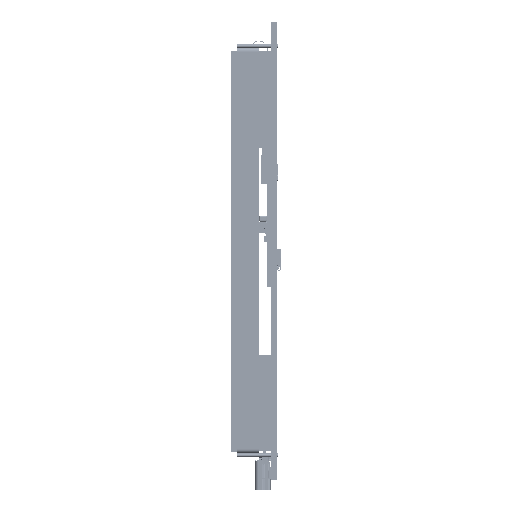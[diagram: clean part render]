
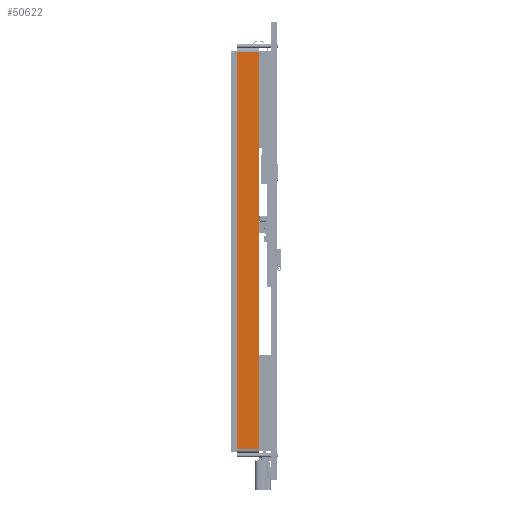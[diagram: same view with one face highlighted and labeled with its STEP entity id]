
A CAD part, left-side view. The second image highlights one B-rep face of the part: STEP entity #50622.
In plain terms, the highlighted planar face has unit normal (-1, 0, 0).
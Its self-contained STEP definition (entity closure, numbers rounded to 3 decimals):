
#912 = PLANE ( 'NONE',  #94893 ) ;
#12338 = VERTEX_POINT ( 'NONE', #179510 ) ;
#17819 = ORIENTED_EDGE ( 'NONE', *, *, #45674, .T. ) ;
#21755 = CARTESIAN_POINT ( 'NONE',  ( -52.44, 10.3, -21.785 ) ) ;
#33971 = DIRECTION ( 'NONE',  ( 0., 0., 1. ) ) ;
#44481 = DIRECTION ( 'NONE',  ( 0., 0., -1. ) ) ;
#45674 = EDGE_CURVE ( 'NONE', #143710, #12338, #61020, .T. ) ;
#50622 = ADVANCED_FACE ( 'NONE', ( #100681 ), #912, .F. ) ;
#56490 = CARTESIAN_POINT ( 'NONE',  ( -52.44, 4.6, -21.785 ) ) ;
#57116 = DIRECTION ( 'NONE',  ( 0., 1., 0. ) ) ;
#61020 = LINE ( 'NONE', #56490, #137694 ) ;
#69096 = VECTOR ( 'NONE', #57116, 1000. ) ;
#71075 = ORIENTED_EDGE ( 'NONE', *, *, #110037, .T. ) ;
#71444 = VECTOR ( 'NONE', #33971, 1000. ) ;
#73941 = ORIENTED_EDGE ( 'NONE', *, *, #102915, .F. ) ;
#74979 = CARTESIAN_POINT ( 'NONE',  ( -52.44, 4.6, -20.785 ) ) ;
#86155 = CARTESIAN_POINT ( 'NONE',  ( -52.44, 10.3, 82.015 ) ) ;
#87374 = CARTESIAN_POINT ( 'NONE',  ( -52.44, 10.3, -21.785 ) ) ;
#92022 = VERTEX_POINT ( 'NONE', #140131 ) ;
#93154 = EDGE_CURVE ( 'NONE', #12338, #123266, #120958, .T. ) ;
#93625 = ORIENTED_EDGE ( 'NONE', *, *, #93154, .T. ) ;
#94893 = AXIS2_PLACEMENT_3D ( 'NONE', #87374, #130892, #44481 ) ;
#100681 = FACE_OUTER_BOUND ( 'NONE', #114673, .T. ) ;
#100696 = LINE ( 'NONE', #21755, #71444 ) ;
#102915 = EDGE_CURVE ( 'NONE', #92022, #123266, #100696, .T. ) ;
#105761 = VECTOR ( 'NONE', #186405, 1000. ) ;
#110037 = EDGE_CURVE ( 'NONE', #92022, #143710, #182372, .T. ) ;
#114046 = CARTESIAN_POINT ( 'NONE',  ( -52.44, 10.3, -20.785 ) ) ;
#114584 = CARTESIAN_POINT ( 'NONE',  ( -52.44, 10.3, 82.015 ) ) ;
#114673 = EDGE_LOOP ( 'NONE', ( #17819, #93625, #73941, #71075 ) ) ;
#120958 = LINE ( 'NONE', #86155, #69096 ) ;
#123266 = VERTEX_POINT ( 'NONE', #114584 ) ;
#130892 = DIRECTION ( 'NONE',  ( 1., 0., 0. ) ) ;
#137694 = VECTOR ( 'NONE', #157372, 1000. ) ;
#140131 = CARTESIAN_POINT ( 'NONE',  ( -52.44, 10.3, -20.785 ) ) ;
#143710 = VERTEX_POINT ( 'NONE', #74979 ) ;
#157372 = DIRECTION ( 'NONE',  ( 0., 0., 1. ) ) ;
#179510 = CARTESIAN_POINT ( 'NONE',  ( -52.44, 4.6, 82.015 ) ) ;
#182372 = LINE ( 'NONE', #114046, #105761 ) ;
#186405 = DIRECTION ( 'NONE',  ( 0., -1., 0. ) ) ;
